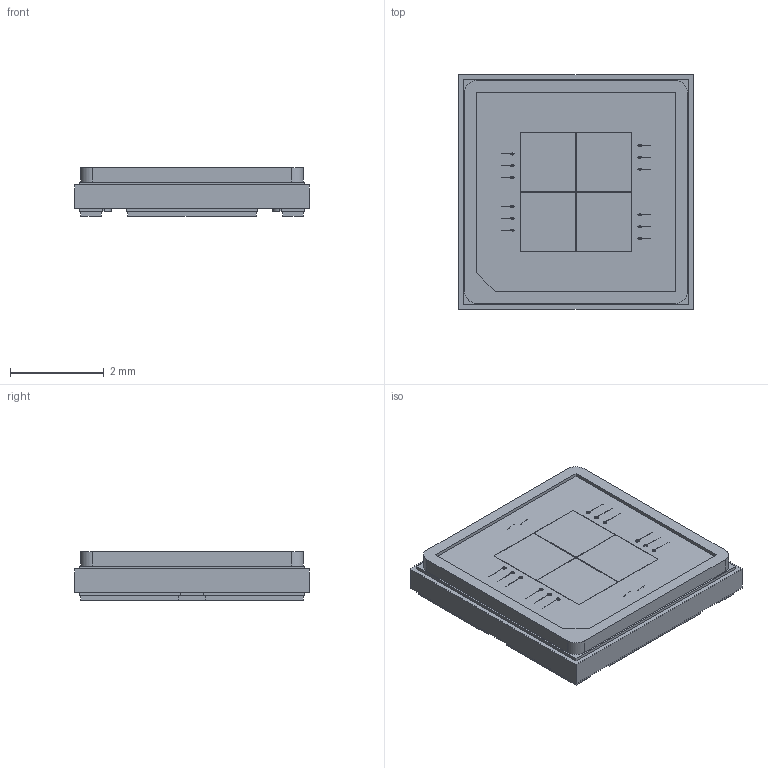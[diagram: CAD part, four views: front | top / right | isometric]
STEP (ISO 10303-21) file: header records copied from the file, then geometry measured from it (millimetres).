
FILE_DESCRIPTION(/* description */ (''),/* implementation_level */ '2;1');
FILE_NAME(/* name */ 'STE2E8E',/* time_stamp */ '2024-12-12T16:54:42+08:00',/* author */ (''),/* organization */ (''),/* preprocessor_version */ 'ST-DEVELOPER v16.5',/* originating_system */ '',/* authorisation */ '');
FILE_SCHEMA (('CONFIG_CONTROL_DESIGN'));
Length unit declared in the file: millimetre
Products named in the file (1): Document
Bounding box: 5 x 5 x 1.03 mm (x, y, z)
Volume: 22.5 mm3; surface area: 212.5 mm2
Topology: 44 solids, 44 shells, 743 faces, 1790 edges, 1093 vertices
Faces by surface type: plane 337, bspline 262, cylinder 144
Entity records: 36070 total; most frequent: CARTESIAN_POINT 24092, ORIENTED_EDGE 3464, EDGE_CURVE 1732, VERTEX_POINT 1093, B_SPLINE_CURVE_WITH_KNOTS 1066, EDGE_LOOP 761, ADVANCED_FACE 743, FACE_OUTER_BOUND 743
